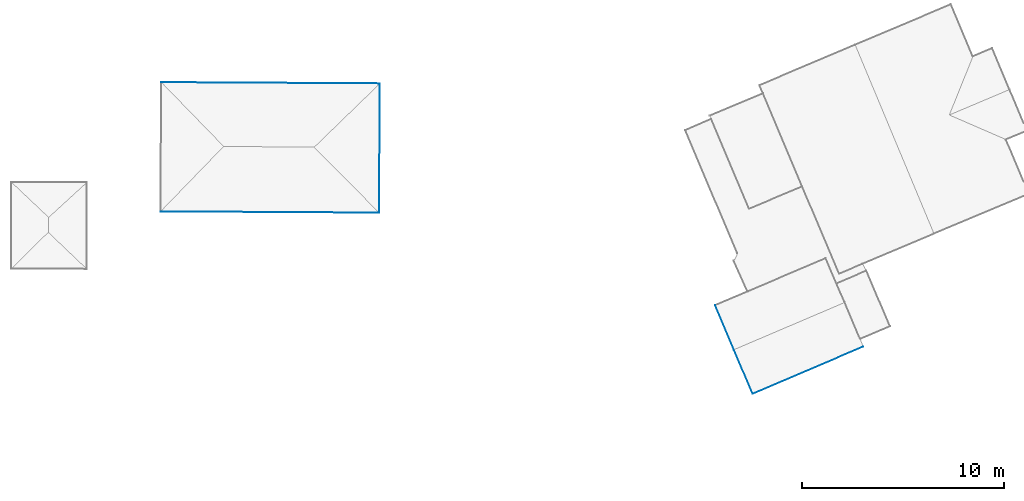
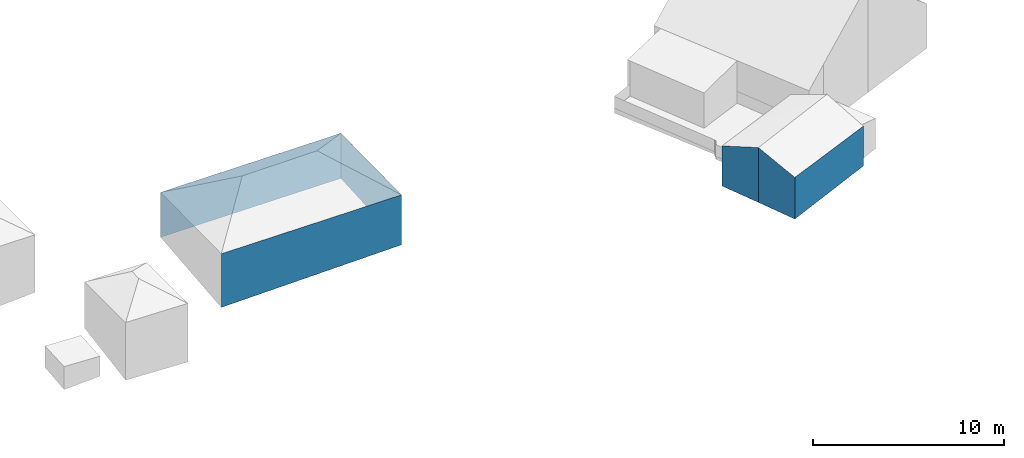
# Not in any storey, part 30 of 59: 6 walls.
"""IFC4 building model written with IfcOpenShell, lengths in metres."""

from ifc_helpers import new_model, entity, si_unit, converted_unit, origin, place, context, subcontext, project, spatial, face_set, surface_model, element, save


model = new_model("IFC4")

# Units and contexts
model_context = context("Model", 3, precision=1e-05, world=origin())
body_context = subcontext(model_context, "Body", "Model", "MODEL_VIEW")
ifc_project = project(units=[converted_unit("PLANEANGLEUNIT", "DEGREE", entity("IfcRatioMeasure", 0.0174532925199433), si_unit("PLANEANGLEUNIT", "RADIAN"), dimensions=[0, 0, 0, 0, 0, 0, 0]), si_unit("AREAUNIT", "SQUARE_METRE"), si_unit("LENGTHUNIT", "METRE")], contexts=[model_context])

# Site, building
site_placement = place(None, origin())
site = spatial("IfcSite", under=ifc_project, at=site_placement, Name="_site")
building_1_placement = place(site_placement, origin())
building_1 = spatial("IfcBuilding", under=site, at=building_1_placement, Name="_building")

# Walls
wall_1_placement = place(building_1_placement, origin())
element("IfcWall", 1, at=wall_1_placement, inside=building_1, Name="Wall", PredefinedType="NOTDEFINED", context=body_context, shape_type="SurfaceModel", body=[
    surface_model("IfcFaceBasedSurfaceModel", [(171.73, 200.49, 218.9), (182.57, 200.43, 218.91), (182.57, 200.43, 216.026), (171.73, 200.49, 216.032)], [face_set([[[0, 1, 2, 3]]])]),
])
wall_2_placement = place(building_1_placement, origin())
element("IfcWall", 2, at=wall_2_placement, inside=building_1, Name="Wall", PredefinedType="NOTDEFINED", context=body_context, shape_type="SurfaceModel", body=[
    surface_model("IfcFaceBasedSurfaceModel", [(182.57, 200.43, 218.91), (182.53, 194.02, 218.88), (182.53, 194.02, 215.695), (182.57, 200.43, 216.026)], [face_set([[[0, 1, 2, 3]]])]),
])
wall_3_placement = place(building_1_placement, origin())
element("IfcWall", 3, at=wall_3_placement, inside=building_1, Name="Wall", PredefinedType="NOTDEFINED", context=body_context, shape_type="SurfaceModel", body=[
    surface_model("IfcFaceBasedSurfaceModel", [(182.53, 194.02, 218.88), (171.69, 194.08, 218.88), (171.69, 194.08, 215.457), (182.53, 194.02, 215.695)], [face_set([[[0, 1, 2, 3]]])]),
])

# Building
building_2_placement = place(site_placement, origin())
building_2 = spatial("IfcBuilding", under=site, at=building_2_placement, Name="_building")

# Walls
wall_4_placement = place(building_2_placement, origin())
element("IfcWall", 4, at=wall_4_placement, inside=building_2, Name="Wall", PredefinedType="NOTDEFINED", context=body_context, shape_type="SurfaceModel", body=[
    surface_model("IfcFaceBasedSurfaceModel", [(200.13, 187.23, 219.85), (199.2, 189.43, 218.95), (199.2, 189.43, 216.391), (200.13, 187.23, 216.352)], [face_set([[[0, 1, 2, 3]]])]),
])
wall_5_placement = place(building_2_placement, origin())
element("IfcWall", 5, at=wall_5_placement, inside=building_2, Name="Wall", PredefinedType="NOTDEFINED", context=body_context, shape_type="SurfaceModel", body=[
    surface_model("IfcFaceBasedSurfaceModel", [(201.06, 185.039, 218.95), (200.13, 187.23, 219.85), (200.13, 187.23, 216.352), (201.06, 185.039, 216.291)], [face_set([[[0, 1, 2, 3]]])]),
])
wall_6_placement = place(building_2_placement, origin())
element("IfcWall", 6, at=wall_6_placement, inside=building_2, Name="Wall", PredefinedType="NOTDEFINED", context=body_context, shape_type="SurfaceModel", body=[
    surface_model("IfcFaceBasedSurfaceModel", [(206.55, 187.381, 218.88), (201.06, 185.039, 218.95), (201.06, 185.039, 216.291), (206.55, 187.381, 216.339)], [face_set([[[0, 1, 2, 3]]])]),
])

save(model, "model.ifc")
